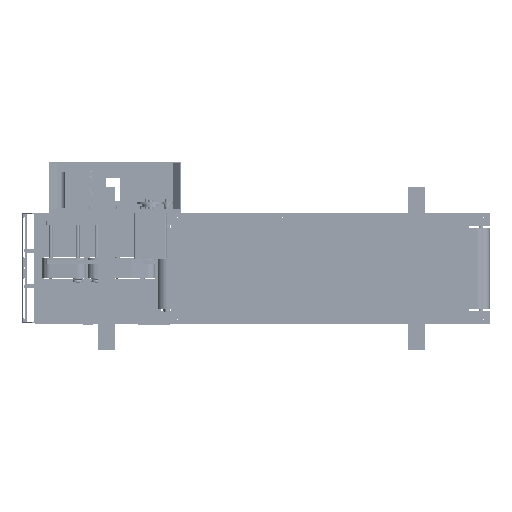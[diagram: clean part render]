
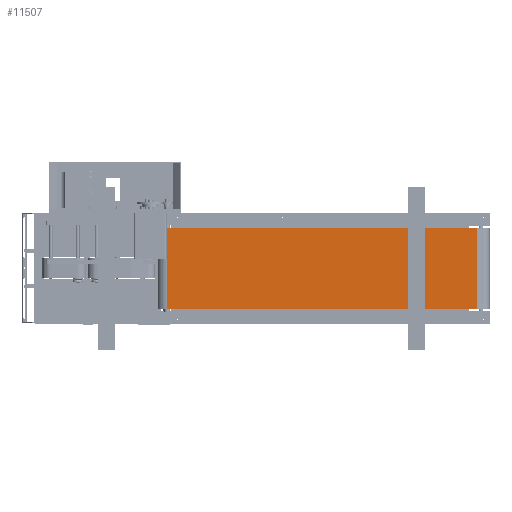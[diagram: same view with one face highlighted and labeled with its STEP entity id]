
A CAD part, front view. The second image highlights one B-rep face of the part: STEP entity #11507.
In plain terms, the highlighted planar face has unit normal (0, -1, 0) as drawn and (0.035, 0.999, 0) by its records, which use the part's own axes.
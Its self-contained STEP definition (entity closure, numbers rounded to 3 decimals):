
#6216=PLANE('',#97473);
#11507=ADVANCED_FACE('',(#19550),#6216,.F.);
#19550=FACE_OUTER_BOUND('',#25017,.T.);
#25017=EDGE_LOOP('',(#53406,#53407,#53408,#53409));
#32663=LINE('',#156564,#39032);
#32666=LINE('',#156572,#39035);
#32668=LINE('',#156581,#39037);
#32669=LINE('',#156582,#39038);
#39032=VECTOR('',#114832,1.);
#39035=VECTOR('',#114843,1.);
#39037=VECTOR('',#114853,1.);
#39038=VECTOR('',#114854,1.);
#53406=ORIENTED_EDGE('',*,*,#81862,.F.);
#53407=ORIENTED_EDGE('',*,*,#81853,.F.);
#53408=ORIENTED_EDGE('',*,*,#81863,.F.);
#53409=ORIENTED_EDGE('',*,*,#81858,.T.);
#71389=VERTEX_POINT('',#156563);
#71390=VERTEX_POINT('',#156565);
#71391=VERTEX_POINT('',#156573);
#71392=VERTEX_POINT('',#156574);
#81853=EDGE_CURVE('',#71389,#71390,#32663,.T.);
#81858=EDGE_CURVE('',#71391,#71392,#32666,.T.);
#81862=EDGE_CURVE('',#71390,#71392,#32668,.T.);
#81863=EDGE_CURVE('',#71391,#71389,#32669,.T.);
#97473=AXIS2_PLACEMENT_3D('',#156583,#114855,#114856);
#114832=DIRECTION('',(-0.999,0.035,0.));
#114843=DIRECTION('',(-0.999,0.035,0.));
#114853=DIRECTION('',(0.,0.,-1.));
#114854=DIRECTION('',(0.,0.,1.));
#114855=DIRECTION('',(-0.035,-0.999,0.));
#114856=DIRECTION('',(-0.999,0.035,0.));
#156563=CARTESIAN_POINT('',(950.034,-4.432,250.));
#156564=CARTESIAN_POINT('',(950.034,-4.432,250.));
#156565=CARTESIAN_POINT('',(2.039,28.928,250.));
#156572=CARTESIAN_POINT('',(950.034,-4.432,0.));
#156573=CARTESIAN_POINT('',(950.034,-4.432,0.));
#156574=CARTESIAN_POINT('',(2.039,28.928,0.));
#156581=CARTESIAN_POINT('',(2.039,28.928,250.));
#156582=CARTESIAN_POINT('',(950.034,-4.432,250.));
#156583=CARTESIAN_POINT('',(2.039,28.928,250.));
